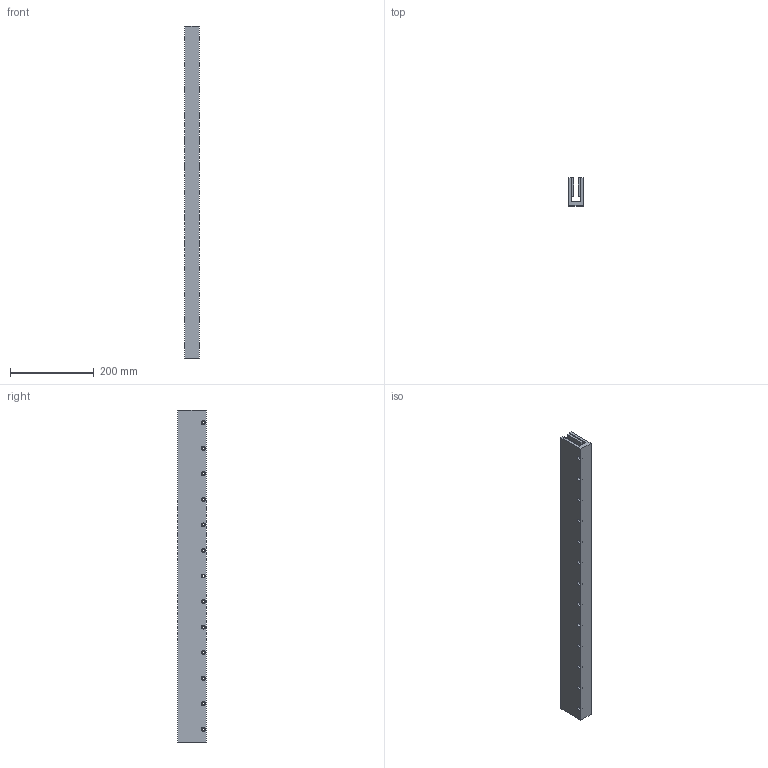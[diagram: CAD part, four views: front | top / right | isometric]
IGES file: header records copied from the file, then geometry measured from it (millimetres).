
Global section: file name: No Iges File Name specified; native system: Autodesk Inventor 2012; preprocessor: AutoDesk Inventor Iges Exporter R2012; author: je17857; date: 20120511.155650; units: inch
Bounding box: 34.29 x 67.31 x 792.23 mm (x, y, z)
Volume: 1178103.4 mm3; surface area: 300875.8 mm2
Topology: 1 solids, 1 shells, 335 faces, 765 edges, 510 vertices
Faces by surface type: plane 296, revolution 39
